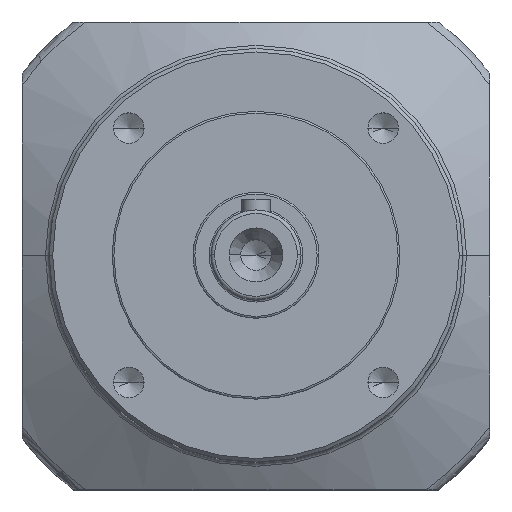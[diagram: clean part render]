
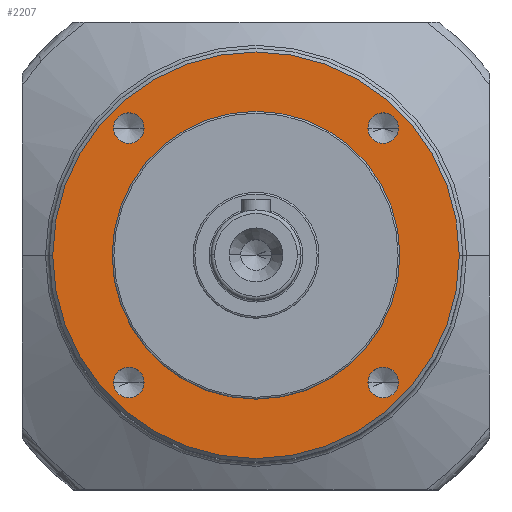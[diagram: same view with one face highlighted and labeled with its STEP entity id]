
A CAD part, top view. The second image highlights one B-rep face of the part: STEP entity #2207.
In plain terms, the highlighted planar face has unit normal (0, 0, 1).
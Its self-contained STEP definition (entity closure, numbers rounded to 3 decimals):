
#109 = CARTESIAN_POINT ( 'NONE',  ( 31.105, -35.355, 0. ) ) ;
#118 = PLANE ( 'NONE',  #3857 ) ;
#138 = CARTESIAN_POINT ( 'NONE',  ( -31.105, 35.355, 0. ) ) ;
#148 = CARTESIAN_POINT ( 'NONE',  ( 0., 0., 0. ) ) ;
#232 = EDGE_LOOP ( 'NONE', ( #3306, #5834 ) ) ;
#327 = DIRECTION ( 'NONE',  ( 0., 0., 1. ) ) ;
#396 = AXIS2_PLACEMENT_3D ( 'NONE', #2497, #5769, #2964 ) ;
#482 = DIRECTION ( 'NONE',  ( 1., 0., 0. ) ) ;
#490 = CARTESIAN_POINT ( 'NONE',  ( -35.355, 35.355, 0. ) ) ;
#535 = FACE_BOUND ( 'NONE', #232, .T. ) ;
#594 = CARTESIAN_POINT ( 'NONE',  ( -56.5, 0., 0. ) ) ;
#641 = EDGE_CURVE ( 'NONE', #3320, #3599, #2191, .T. ) ;
#646 = DIRECTION ( 'NONE',  ( 0., 0., 1. ) ) ;
#682 = FACE_BOUND ( 'NONE', #1065, .T. ) ;
#768 = EDGE_CURVE ( 'NONE', #4787, #2605, #5467, .T. ) ;
#865 = CARTESIAN_POINT ( 'NONE',  ( -40., 0., 0. ) ) ;
#879 = DIRECTION ( 'NONE',  ( 1., 0., 0. ) ) ;
#910 = ORIENTED_EDGE ( 'NONE', *, *, #1667, .F. ) ;
#959 = DIRECTION ( 'NONE',  ( 1., 0., 0. ) ) ;
#981 = CIRCLE ( 'NONE', #3166, 40. ) ;
#985 = DIRECTION ( 'NONE',  ( 0., 0., 1. ) ) ;
#1065 = EDGE_LOOP ( 'NONE', ( #4466, #1076 ) ) ;
#1076 = ORIENTED_EDGE ( 'NONE', *, *, #5348, .F. ) ;
#1209 = VERTEX_POINT ( 'NONE', #2902 ) ;
#1221 = CARTESIAN_POINT ( 'NONE',  ( 40., 0., 0. ) ) ;
#1233 = CARTESIAN_POINT ( 'NONE',  ( 0., 0., 0. ) ) ;
#1242 = EDGE_CURVE ( 'NONE', #4407, #5980, #1439, .T. ) ;
#1248 = CARTESIAN_POINT ( 'NONE',  ( -35.355, 35.355, 0. ) ) ;
#1349 = ORIENTED_EDGE ( 'NONE', *, *, #2216, .T. ) ;
#1359 = CARTESIAN_POINT ( 'NONE',  ( 35.355, -35.355, 0. ) ) ;
#1400 = CIRCLE ( 'NONE', #5456, 4.25 ) ;
#1439 = CIRCLE ( 'NONE', #3377, 40. ) ;
#1574 = DIRECTION ( 'NONE',  ( 0., 0., 1. ) ) ;
#1608 = CIRCLE ( 'NONE', #4301, 4.25 ) ;
#1667 = EDGE_CURVE ( 'NONE', #5980, #4407, #981, .T. ) ;
#1689 = CIRCLE ( 'NONE', #5055, 4.25 ) ;
#1706 = DIRECTION ( 'NONE',  ( 1., 0., 0. ) ) ;
#1774 = EDGE_LOOP ( 'NONE', ( #4271, #1349 ) ) ;
#1790 = FACE_OUTER_BOUND ( 'NONE', #1774, .T. ) ;
#1800 = VERTEX_POINT ( 'NONE', #1829 ) ;
#1829 = CARTESIAN_POINT ( 'NONE',  ( 31.105, 35.355, 0. ) ) ;
#2061 = DIRECTION ( 'NONE',  ( 0., 0., 1. ) ) ;
#2191 = CIRCLE ( 'NONE', #3737, 4.25 ) ;
#2207 = ADVANCED_FACE ( 'NONE', ( #5518, #3015, #682, #535, #1790, #5366 ), #118, .T. ) ;
#2216 = EDGE_CURVE ( 'NONE', #4777, #2420, #2744, .T. ) ;
#2387 = DIRECTION ( 'NONE',  ( 0., 0., 1. ) ) ;
#2420 = VERTEX_POINT ( 'NONE', #594 ) ;
#2471 = CIRCLE ( 'NONE', #396, 4.25 ) ;
#2497 = CARTESIAN_POINT ( 'NONE',  ( 35.355, -35.355, 0. ) ) ;
#2599 = DIRECTION ( 'NONE',  ( 0., 0., 1. ) ) ;
#2605 = VERTEX_POINT ( 'NONE', #4711 ) ;
#2744 = CIRCLE ( 'NONE', #4173, 56.5 ) ;
#2851 = DIRECTION ( 'NONE',  ( 1., 0., 0. ) ) ;
#2858 = ORIENTED_EDGE ( 'NONE', *, *, #1242, .F. ) ;
#2902 = CARTESIAN_POINT ( 'NONE',  ( -39.605, 35.355, 0. ) ) ;
#2907 = CARTESIAN_POINT ( 'NONE',  ( 56.5, 0., 0. ) ) ;
#2964 = DIRECTION ( 'NONE',  ( 1., 0., 0. ) ) ;
#3015 = FACE_BOUND ( 'NONE', #4098, .T. ) ;
#3166 = AXIS2_PLACEMENT_3D ( 'NONE', #1233, #4590, #4742 ) ;
#3290 = AXIS2_PLACEMENT_3D ( 'NONE', #4850, #2061, #5333 ) ;
#3306 = ORIENTED_EDGE ( 'NONE', *, *, #4821, .F. ) ;
#3320 = VERTEX_POINT ( 'NONE', #4209 ) ;
#3339 = CARTESIAN_POINT ( 'NONE',  ( 39.605, 35.355, 0. ) ) ;
#3377 = AXIS2_PLACEMENT_3D ( 'NONE', #4365, #1574, #4824 ) ;
#3434 = CARTESIAN_POINT ( 'NONE',  ( 35.355, 35.355, 0. ) ) ;
#3599 = VERTEX_POINT ( 'NONE', #4493 ) ;
#3685 = ORIENTED_EDGE ( 'NONE', *, *, #768, .F. ) ;
#3715 = CIRCLE ( 'NONE', #3290, 56.5 ) ;
#3737 = AXIS2_PLACEMENT_3D ( 'NONE', #5180, #2387, #2851 ) ;
#3758 = DIRECTION ( 'NONE',  ( 0., 0., 1. ) ) ;
#3784 = CARTESIAN_POINT ( 'NONE',  ( -35.355, -35.355, 0. ) ) ;
#3794 = CARTESIAN_POINT ( 'NONE',  ( 0., 0., 0. ) ) ;
#3857 = AXIS2_PLACEMENT_3D ( 'NONE', #148, #327, #482 ) ;
#3912 = DIRECTION ( 'NONE',  ( 1., 0., 0. ) ) ;
#4070 = ORIENTED_EDGE ( 'NONE', *, *, #641, .F. ) ;
#4098 = EDGE_LOOP ( 'NONE', ( #4402, #4070 ) ) ;
#4122 = EDGE_CURVE ( 'NONE', #3599, #3320, #1689, .T. ) ;
#4144 = DIRECTION ( 'NONE',  ( 0., 0., 1. ) ) ;
#4151 = DIRECTION ( 'NONE',  ( 0., 0., 1. ) ) ;
#4173 = AXIS2_PLACEMENT_3D ( 'NONE', #3794, #4151, #4284 ) ;
#4209 = CARTESIAN_POINT ( 'NONE',  ( -39.605, -35.355, 0. ) ) ;
#4242 = DIRECTION ( 'NONE',  ( 1., 0., 0. ) ) ;
#4271 = ORIENTED_EDGE ( 'NONE', *, *, #5654, .T. ) ;
#4284 = DIRECTION ( 'NONE',  ( 1., 0., 0. ) ) ;
#4301 = AXIS2_PLACEMENT_3D ( 'NONE', #5401, #2599, #5873 ) ;
#4312 = EDGE_CURVE ( 'NONE', #1800, #4712, #1608, .T. ) ;
#4365 = CARTESIAN_POINT ( 'NONE',  ( 0., 0., 0. ) ) ;
#4378 = CIRCLE ( 'NONE', #4770, 4.25 ) ;
#4383 = CIRCLE ( 'NONE', #4389, 4.25 ) ;
#4389 = AXIS2_PLACEMENT_3D ( 'NONE', #3434, #646, #3912 ) ;
#4402 = ORIENTED_EDGE ( 'NONE', *, *, #4122, .F. ) ;
#4407 = VERTEX_POINT ( 'NONE', #1221 ) ;
#4466 = ORIENTED_EDGE ( 'NONE', *, *, #4635, .F. ) ;
#4493 = CARTESIAN_POINT ( 'NONE',  ( -31.105, -35.355, 0. ) ) ;
#4502 = DIRECTION ( 'NONE',  ( 0., 0., 1. ) ) ;
#4590 = DIRECTION ( 'NONE',  ( 0., 0., 1. ) ) ;
#4635 = EDGE_CURVE ( 'NONE', #5154, #1209, #1400, .T. ) ;
#4711 = CARTESIAN_POINT ( 'NONE',  ( 39.605, -35.355, 0. ) ) ;
#4712 = VERTEX_POINT ( 'NONE', #3339 ) ;
#4742 = DIRECTION ( 'NONE',  ( 1., 0., 0. ) ) ;
#4770 = AXIS2_PLACEMENT_3D ( 'NONE', #1248, #4502, #1706 ) ;
#4777 = VERTEX_POINT ( 'NONE', #2907 ) ;
#4787 = VERTEX_POINT ( 'NONE', #109 ) ;
#4821 = EDGE_CURVE ( 'NONE', #4712, #1800, #4383, .T. ) ;
#4824 = DIRECTION ( 'NONE',  ( 1., 0., 0. ) ) ;
#4850 = CARTESIAN_POINT ( 'NONE',  ( 0., 0., 0. ) ) ;
#4867 = AXIS2_PLACEMENT_3D ( 'NONE', #1359, #4144, #879 ) ;
#5055 = AXIS2_PLACEMENT_3D ( 'NONE', #3784, #985, #4242 ) ;
#5138 = EDGE_LOOP ( 'NONE', ( #910, #2858 ) ) ;
#5154 = VERTEX_POINT ( 'NONE', #138 ) ;
#5172 = EDGE_CURVE ( 'NONE', #2605, #4787, #2471, .T. ) ;
#5180 = CARTESIAN_POINT ( 'NONE',  ( -35.355, -35.355, 0. ) ) ;
#5333 = DIRECTION ( 'NONE',  ( 1., 0., 0. ) ) ;
#5348 = EDGE_CURVE ( 'NONE', #1209, #5154, #4378, .T. ) ;
#5361 = ORIENTED_EDGE ( 'NONE', *, *, #5172, .F. ) ;
#5366 = FACE_BOUND ( 'NONE', #5138, .T. ) ;
#5401 = CARTESIAN_POINT ( 'NONE',  ( 35.355, 35.355, 0. ) ) ;
#5456 = AXIS2_PLACEMENT_3D ( 'NONE', #490, #3758, #959 ) ;
#5467 = CIRCLE ( 'NONE', #4867, 4.25 ) ;
#5518 = FACE_BOUND ( 'NONE', #5830, .T. ) ;
#5654 = EDGE_CURVE ( 'NONE', #2420, #4777, #3715, .T. ) ;
#5769 = DIRECTION ( 'NONE',  ( 0., 0., 1. ) ) ;
#5830 = EDGE_LOOP ( 'NONE', ( #5361, #3685 ) ) ;
#5834 = ORIENTED_EDGE ( 'NONE', *, *, #4312, .F. ) ;
#5873 = DIRECTION ( 'NONE',  ( 1., 0., 0. ) ) ;
#5980 = VERTEX_POINT ( 'NONE', #865 ) ;
